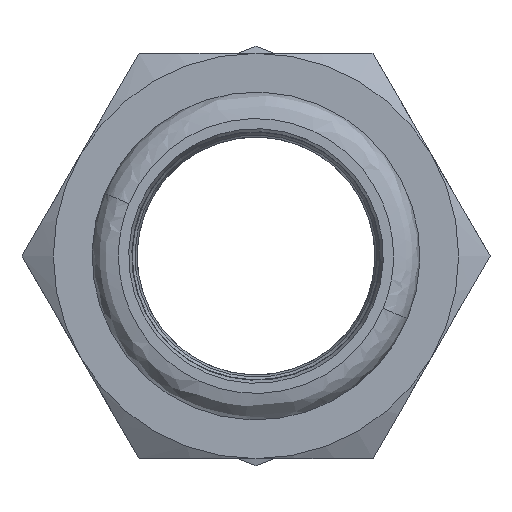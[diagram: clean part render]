
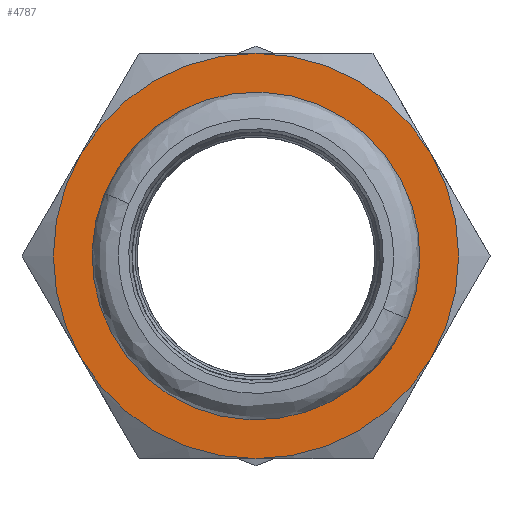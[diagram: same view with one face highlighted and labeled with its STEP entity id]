
A CAD part, left-side view. The second image highlights one B-rep face of the part: STEP entity #4787.
In plain terms, the highlighted planar face has unit normal (-1, 0, 0) as drawn and (0, 1, 0) by its records, which use the part's own axes.
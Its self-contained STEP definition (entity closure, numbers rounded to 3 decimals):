
#146 = DIRECTION ( 'NONE',  ( 0., 0., -1. ) ) ;
#172 = DIRECTION ( 'NONE',  ( 0., 0., -1. ) ) ;
#299 = CARTESIAN_POINT ( 'NONE',  ( 0., 19., 23. ) ) ;
#337 = DIRECTION ( 'NONE',  ( 0., 1., 0. ) ) ;
#454 = DIRECTION ( 'NONE',  ( 0., 1., 0. ) ) ;
#546 = EDGE_CURVE ( 'NONE', #1579, #1949, #2361, .T. ) ;
#656 = EDGE_LOOP ( 'NONE', ( #3789, #3525 ) ) ;
#863 = DIRECTION ( 'NONE',  ( 0., 0., 1. ) ) ;
#909 = CARTESIAN_POINT ( 'NONE',  ( 0., 19., 0. ) ) ;
#1070 = CIRCLE ( 'NONE', #1660, 23. ) ;
#1113 = DIRECTION ( 'NONE',  ( 0., 0., 1. ) ) ;
#1165 = ORIENTED_EDGE ( 'NONE', *, *, #2458, .T. ) ;
#1232 = CARTESIAN_POINT ( 'NONE',  ( 0., 19., 0. ) ) ;
#1316 = CARTESIAN_POINT ( 'NONE',  ( -19.919, 19., -11.5 ) ) ;
#1412 = EDGE_CURVE ( 'NONE', #4239, #1579, #1070, .T. ) ;
#1465 = ORIENTED_EDGE ( 'NONE', *, *, #1412, .T. ) ;
#1519 = CARTESIAN_POINT ( 'NONE',  ( 0., 19., 0. ) ) ;
#1549 = AXIS2_PLACEMENT_3D ( 'NONE', #3573, #2019, #863 ) ;
#1575 = DIRECTION ( 'NONE',  ( 0., 0., -1. ) ) ;
#1579 = VERTEX_POINT ( 'NONE', #1316 ) ;
#1660 = AXIS2_PLACEMENT_3D ( 'NONE', #2429, #4038, #146 ) ;
#1723 = CARTESIAN_POINT ( 'NONE',  ( 0., 19., 16. ) ) ;
#1748 = AXIS2_PLACEMENT_3D ( 'NONE', #909, #3195, #2434 ) ;
#1762 = DIRECTION ( 'NONE',  ( 0., 0., -1. ) ) ;
#1774 = CARTESIAN_POINT ( 'NONE',  ( 19.919, 19., -11.5 ) ) ;
#1814 = CIRCLE ( 'NONE', #1748, 23. ) ;
#1876 = DIRECTION ( 'NONE',  ( 0., 0., -1. ) ) ;
#1949 = VERTEX_POINT ( 'NONE', #3440 ) ;
#2019 = DIRECTION ( 'NONE',  ( 0., -1., 0. ) ) ;
#2078 = CARTESIAN_POINT ( 'NONE',  ( 0., 19., 0. ) ) ;
#2087 = CIRCLE ( 'NONE', #3360, 23. ) ;
#2097 = CARTESIAN_POINT ( 'NONE',  ( 0., 19., 0. ) ) ;
#2257 = CARTESIAN_POINT ( 'NONE',  ( 0., 19., -16. ) ) ;
#2361 = CIRCLE ( 'NONE', #4186, 23. ) ;
#2393 = VERTEX_POINT ( 'NONE', #2257 ) ;
#2416 = CARTESIAN_POINT ( 'NONE',  ( 19.919, 19., 11.5 ) ) ;
#2418 = EDGE_LOOP ( 'NONE', ( #1465, #5073, #1165, #3323, #3009, #3390 ) ) ;
#2429 = CARTESIAN_POINT ( 'NONE',  ( 0., 19., 0. ) ) ;
#2433 = AXIS2_PLACEMENT_3D ( 'NONE', #1519, #337, #3471 ) ;
#2434 = DIRECTION ( 'NONE',  ( 0., 0., -1. ) ) ;
#2458 = EDGE_CURVE ( 'NONE', #1949, #4087, #2087, .T. ) ;
#2643 = VERTEX_POINT ( 'NONE', #2416 ) ;
#2891 = VERTEX_POINT ( 'NONE', #1774 ) ;
#3009 = ORIENTED_EDGE ( 'NONE', *, *, #4987, .T. ) ;
#3010 = EDGE_CURVE ( 'NONE', #4087, #2643, #1814, .T. ) ;
#3101 = CARTESIAN_POINT ( 'NONE',  ( 0., 19., -23. ) ) ;
#3108 = AXIS2_PLACEMENT_3D ( 'NONE', #3547, #454, #1876 ) ;
#3195 = DIRECTION ( 'NONE',  ( 0., 1., 0. ) ) ;
#3254 = DIRECTION ( 'NONE',  ( 0., 1., 0. ) ) ;
#3310 = DIRECTION ( 'NONE',  ( 0., 1., 0. ) ) ;
#3323 = ORIENTED_EDGE ( 'NONE', *, *, #3010, .T. ) ;
#3327 = VERTEX_POINT ( 'NONE', #1723 ) ;
#3350 = CIRCLE ( 'NONE', #1549, 16. ) ;
#3360 = AXIS2_PLACEMENT_3D ( 'NONE', #1232, #4345, #1575 ) ;
#3390 = ORIENTED_EDGE ( 'NONE', *, *, #3890, .T. ) ;
#3410 = EDGE_CURVE ( 'NONE', #2393, #3327, #3999, .T. ) ;
#3440 = CARTESIAN_POINT ( 'NONE',  ( -19.919, 19., 11.5 ) ) ;
#3469 = CIRCLE ( 'NONE', #4503, 23. ) ;
#3471 = DIRECTION ( 'NONE',  ( 0., 0., 1. ) ) ;
#3525 = ORIENTED_EDGE ( 'NONE', *, *, #3410, .T. ) ;
#3547 = CARTESIAN_POINT ( 'NONE',  ( 0., 19., 0. ) ) ;
#3573 = CARTESIAN_POINT ( 'NONE',  ( 0., 19., 0. ) ) ;
#3615 = EDGE_CURVE ( 'NONE', #3327, #2393, #3350, .T. ) ;
#3779 = CARTESIAN_POINT ( 'NONE',  ( 0., 19., 0. ) ) ;
#3789 = ORIENTED_EDGE ( 'NONE', *, *, #3615, .T. ) ;
#3806 = CIRCLE ( 'NONE', #3108, 23. ) ;
#3887 = DIRECTION ( 'NONE',  ( 0., -1., 0. ) ) ;
#3890 = EDGE_CURVE ( 'NONE', #2891, #4239, #3806, .T. ) ;
#3999 = CIRCLE ( 'NONE', #4992, 16. ) ;
#4035 = FACE_OUTER_BOUND ( 'NONE', #2418, .T. ) ;
#4038 = DIRECTION ( 'NONE',  ( 0., 1., 0. ) ) ;
#4087 = VERTEX_POINT ( 'NONE', #299 ) ;
#4186 = AXIS2_PLACEMENT_3D ( 'NONE', #2097, #3254, #172 ) ;
#4222 = PLANE ( 'NONE',  #2433 ) ;
#4239 = VERTEX_POINT ( 'NONE', #3101 ) ;
#4345 = DIRECTION ( 'NONE',  ( 0., 1., 0. ) ) ;
#4503 = AXIS2_PLACEMENT_3D ( 'NONE', #2078, #3310, #1762 ) ;
#4787 = ADVANCED_FACE ( 'NONE', ( #4035, #4826 ), #4222, .T. ) ;
#4826 = FACE_BOUND ( 'NONE', #656, .T. ) ;
#4987 = EDGE_CURVE ( 'NONE', #2643, #2891, #3469, .T. ) ;
#4992 = AXIS2_PLACEMENT_3D ( 'NONE', #3779, #3887, #1113 ) ;
#5073 = ORIENTED_EDGE ( 'NONE', *, *, #546, .T. ) ;
